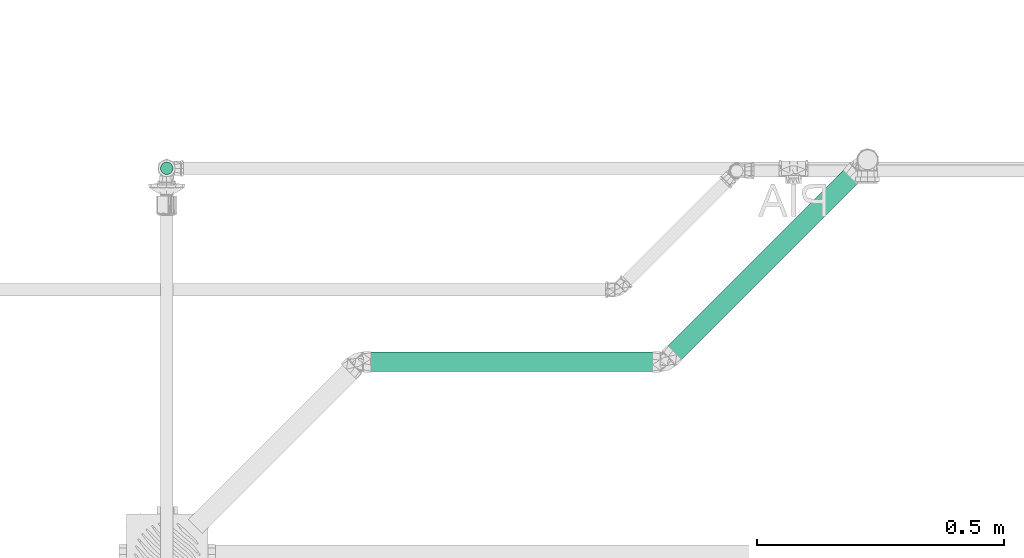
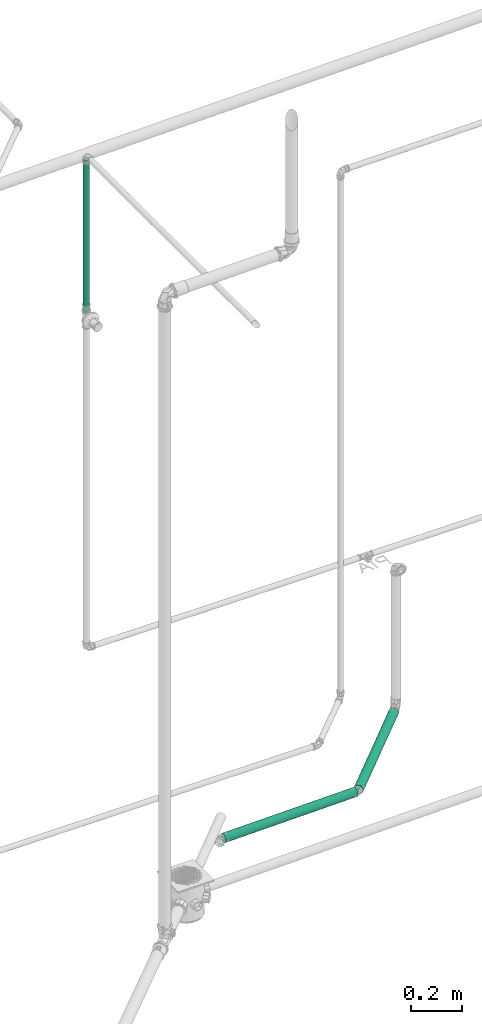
# One storey, part 71 of 589: 3 flow segments.
"""IFC2X3 building model written with IfcOpenShell, lengths in millimetres."""

import ifcopenshell
import ifcopenshell.guid

model = None  # the IFC model being written
_history = None  # IfcOwnerHistory: only IFC2X3 demands one
_inside = {}  # id of a spatial element -> (the spatial element, [elements in it])
_under = {}  # id of a project, library or spatial element -> (it, [spatial elements below it])
_declared = {}  # id of a project -> (the project, [libraries it declares])
_typed = {}  # id of a type object -> (the type object, [elements of that type])
_made_of = {}  # id of a material, layer set ... -> (it, [elements and type objects made of it])


def new_model(schema):
    """Start an empty IFC model of exactly this schema.

    Asked for "IFC4X3", IfcOpenShell would pick the latest addendum, in which some entities
    have other attributes; the version numbers below select the first issue.
    IFC2X3 requires an IfcOwnerHistory on every rooted entity: one is made here for all.
    """
    global model, _history
    if schema == "IFC4X3":
        model = ifcopenshell.file(schema_version=(4, 3, 0, 0))
    else:
        model = ifcopenshell.file(schema=schema)
    _inside.clear()
    _under.clear()
    _declared.clear()
    _typed.clear()
    _made_of.clear()
    _history = None
    if model.schema == "IFC2X3":
        org = make("IfcOrganization", Name="unknown")
        user = make(
            "IfcPersonAndOrganization",
            ThePerson=make("IfcPerson", FamilyName="unknown"),
            TheOrganization=org,
        )
        app = make(
            "IfcApplication",
            ApplicationDeveloper=org,
            Version="unknown",
            ApplicationFullName="unknown",
            ApplicationIdentifier="unknown",
        )
        _history = make(
            "IfcOwnerHistory",
            OwningUser=user,
            OwningApplication=app,
            ChangeAction="ADDED",
            CreationDate=0,
        )
    return model


def make(cls, **values):
    """One entity of the class cls with the attributes given. An attribute that is None is left unset."""
    return model.create_entity(
        cls, **{name: value for name, value in values.items() if value is not None}
    )


def entity(cls, *values):
    """Any entity or typed value of the class cls, its attributes in the order of the schema. None: left unset."""
    e = model.create_entity(cls)
    for i, value in enumerate(values):
        if value is not None:
            e[i] = value
    return e


def rooted(cls, **values):
    """An entity with a GlobalId (a new one), such as an element, a storey or a relation."""
    return make(cls, GlobalId=ifcopenshell.guid.new(), OwnerHistory=_history, **values)


def si_unit(unit_type, name, prefix=None):
    """IfcSIUnit, for example si_unit("LENGTHUNIT", "METRE", prefix="MILLI")."""
    return make("IfcSIUnit", UnitType=unit_type, Prefix=prefix, Name=name)


def converted_unit(unit_type, name, factor, base, dimensions=None, offset=None):
    """IfcConversionBasedUnit, such as the inch: factor (a typed value) times the base unit."""
    return make(
        "IfcConversionBasedUnit"
        if offset is None
        else "IfcConversionBasedUnitWithOffset",
        ConversionOffset=offset,
        Dimensions=None
        if dimensions is None
        else entity("IfcDimensionalExponents", *dimensions),
        UnitType=unit_type,
        Name=name,
        ConversionFactor=make(
            "IfcMeasureWithUnit", ValueComponent=factor, UnitComponent=base
        ),
    )


def derived_unit(unit_type, elements):
    """IfcDerivedUnit: a product of units, each with its exponent."""
    return make(
        "IfcDerivedUnit",
        Elements=[
            make("IfcDerivedUnitElement", Unit=unit, Exponent=power)
            for unit, power in elements
        ],
        UnitType=unit_type,
    )


def assignment(units):
    """IfcUnitAssignment: the units of a project."""
    return None if units is None else make("IfcUnitAssignment", Units=units)


def point(xyz):
    """IfcCartesianPoint."""
    return None if xyz is None else make("IfcCartesianPoint", Coordinates=xyz)


def direction(xyz):
    """IfcDirection."""
    return None if xyz is None else make("IfcDirection", DirectionRatios=xyz)


def frame(location, z_axis=None, x_axis=None):
    """IfcAxis2Placement3D, a coordinate frame: its origin and axes. An axis left out is left unset."""
    return make(
        "IfcAxis2Placement3D",
        Location=point(location),
        Axis=direction(z_axis),
        RefDirection=direction(x_axis),
    )


def frame_2d(location, x_axis=None):
    """IfcAxis2Placement2D, a coordinate frame in the plane: its origin and x axis."""
    return make(
        "IfcAxis2Placement2D", Location=point(location), RefDirection=direction(x_axis)
    )


def origin():
    """The frame at (0, 0, 0) with its axes left unset."""
    return frame((0.0, 0.0, 0.0))


def origin_2d_with_axis():
    """The frame at (0, 0) in the plane with the x axis (1, 0) written out."""
    return frame_2d((0.0, 0.0), x_axis=(1.0, 0.0))


def place(relative_to, where):
    """IfcLocalPlacement: puts the frame where relative to a parent placement (None: the world)."""
    return make(
        "IfcLocalPlacement", PlacementRelTo=relative_to, RelativePlacement=where
    )


def context(
    kind, dimensions, precision=None, world=None, true_north=None, identifier=None
):
    """IfcGeometricRepresentationContext, for example the 3D "Model" context."""
    return make(
        "IfcGeometricRepresentationContext",
        ContextIdentifier=identifier,
        ContextType=kind,
        CoordinateSpaceDimension=dimensions,
        Precision=precision,
        WorldCoordinateSystem=world,
        TrueNorth=true_north,
    )


def subcontext(parent, identifier, kind, view, scale=None):
    """IfcGeometricRepresentationSubContext, for example "Body" below "Model"."""
    return make(
        "IfcGeometricRepresentationSubContext",
        ContextIdentifier=identifier,
        ContextType=kind,
        ParentContext=parent,
        TargetScale=scale,
        TargetView=view,
    )


def project(units=None, contexts=None):
    """IfcProject with its units and contexts."""
    return rooted(
        "IfcProject",
        Name="project",
        RepresentationContexts=contexts,
        UnitsInContext=assignment(units),
    )


def spatial(cls, under=None, at=None, **own):
    """A site, building, storey or space (cls), placed at a placement, below another one or the project."""
    s = rooted(cls, ObjectPlacement=at, **own)
    if under is not None:
        _under.setdefault(under.id(), (under, []))[1].append(s)
    return s


def profile(cls, at=None, kind="AREA", **sizes):
    """A parametric profile (cls). Its sizes go by their IFC names, for example OverallWidth=200.0."""
    return make(cls, ProfileType=kind, Position=at, **sizes)


def circle(**sizes):
    """IfcCircleProfileDef."""
    return profile("IfcCircleProfileDef", **sizes)


def extrude(swept, where, along, depth):
    """IfcExtrudedAreaSolid: the profile swept, set in the frame where, extruded along a direction by depth."""
    return make(
        "IfcExtrudedAreaSolid",
        SweptArea=swept,
        Position=where,
        ExtrudedDirection=direction(along),
        Depth=depth,
    )


def shape(context_of_items, identifier, shape_type, items):
    """IfcShapeRepresentation: the items that make up one representation, for example the "Body"."""
    return make(
        "IfcShapeRepresentation",
        ContextOfItems=context_of_items,
        RepresentationIdentifier=identifier,
        RepresentationType=shape_type,
        Items=items,
    )


def made_of(thing, what):
    """Note that an element or type object is made of a material, layer set ...; save() writes the relation."""
    if what is not None:
        _made_of.setdefault(what.id(), (what, []))[1].append(thing)
    return thing


def type_object(cls, material=None, **own):
    """A type object (cls), such as IfcWallType, which elements share."""
    return made_of(rooted(cls, **own), material)


def element(
    cls,
    number,
    at=None,
    inside=None,
    cuts=None,
    type_object=None,
    material=None,
    context=None,
    identifier="Body",
    shape_type=None,
    held_by="IfcProductDefinitionShape",
    body=None,
    shapes=None,
    **own,
):
    """One element of the class cls, such as IfcWall. Its Tag is "e" and its number.

    at: its placement. inside: the storey or other place that contains it. cuts: it is an
    opening in that element (IfcRelVoidsElement). A single representation is given by context,
    identifier, shape_type and body (its items); several are given by shapes. held_by: the class
    of the entity that holds the representations. save() writes the other relations.
    """
    e = rooted(cls, Tag="e%d" % number, ObjectPlacement=at, **own)
    if body is not None:
        shapes = [shape(context, identifier, shape_type, body)]
    if shapes is not None:
        e.Representation = make(held_by, Representations=shapes)
    if inside is not None:
        _inside.setdefault(inside.id(), (inside, []))[1].append(e)
    if cuts is not None:
        rooted(
            "IfcRelVoidsElement", RelatingBuildingElement=cuts, RelatedOpeningElement=e
        )
    if type_object is not None:
        _typed.setdefault(type_object.id(), (type_object, []))[1].append(e)
    return made_of(e, material)


def aggregate(whole, parts):
    """IfcRelAggregates: a whole, such as a stair, and the parts it consists of."""
    return rooted("IfcRelAggregates", RelatingObject=whole, RelatedObjects=parts)


def save(model, path):
    """Write the relations noted so far, then the file.

    IfcRelAggregates (storeys below a building ...), IfcRelContainedInSpatialStructure (elements
    in a storey), IfcRelDefinesByType, IfcRelAssociatesMaterial and IfcRelDeclares: one each for
    every whole, place, type object, material and project.
    """
    for whole, parts in _under.values():
        aggregate(whole, parts)
    for where, things in _inside.values():
        rooted(
            "IfcRelContainedInSpatialStructure",
            RelatedElements=things,
            RelatingStructure=where,
        )
    for kind, things in _typed.values():
        rooted("IfcRelDefinesByType", RelatedObjects=things, RelatingType=kind)
    for what, things in _made_of.values():
        rooted("IfcRelAssociatesMaterial", RelatedObjects=things, RelatingMaterial=what)
    for by, libraries in _declared.values():
        rooted("IfcRelDeclares", RelatingContext=by, RelatedDefinitions=libraries)
    model.write(path)


model = new_model("IFC2X3")

# Units and contexts
model_context = context("Model", 3, precision=0.01, world=origin(), true_north=direction((6.123031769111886e-17, 1.0)))
body_context = subcontext(model_context, "Body", "Model", "MODEL_VIEW")
ifc_project = project(units=[si_unit("LENGTHUNIT", "METRE", prefix="MILLI"), si_unit("AREAUNIT", "SQUARE_METRE"), si_unit("VOLUMEUNIT", "CUBIC_METRE"), converted_unit("PLANEANGLEUNIT", "DEGREE", entity("IfcRatioMeasure", 0.017453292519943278), si_unit("PLANEANGLEUNIT", "RADIAN"), dimensions=[0, 0, 0, 0, 0, 0, 0]), si_unit("MASSUNIT", "GRAM", prefix="KILO"), derived_unit("MASSDENSITYUNIT", [(si_unit("MASSUNIT", "GRAM", prefix="KILO"), 1), (si_unit("LENGTHUNIT", "METRE"), -3)]), derived_unit("IONCONCENTRATIONUNIT", [(si_unit("MASSUNIT", "GRAM", prefix="KILO"), 1), (si_unit("LENGTHUNIT", "METRE"), -3)]), derived_unit("MOMENTOFINERTIAUNIT", [(si_unit("LENGTHUNIT", "METRE"), 4)]), si_unit("TIMEUNIT", "SECOND"), si_unit("FREQUENCYUNIT", "HERTZ"), si_unit("THERMODYNAMICTEMPERATUREUNIT", "DEGREE_CELSIUS"), derived_unit("THERMALTRANSMITTANCEUNIT", [(si_unit("MASSUNIT", "GRAM", prefix="KILO"), 1), (si_unit("THERMODYNAMICTEMPERATUREUNIT", "KELVIN"), -1), (si_unit("TIMEUNIT", "SECOND"), -3)]), derived_unit("THERMALCONDUCTANCEUNIT", [(si_unit("MASSUNIT", "GRAM", prefix="KILO"), 1), (si_unit("THERMODYNAMICTEMPERATUREUNIT", "KELVIN"), -1), (si_unit("TIMEUNIT", "SECOND"), -3), (si_unit("LENGTHUNIT", "METRE"), 1)]), derived_unit("VOLUMETRICFLOWRATEUNIT", [(si_unit("LENGTHUNIT", "METRE"), 3), (si_unit("TIMEUNIT", "SECOND"), -1)]), derived_unit("MASSFLOWRATEUNIT", [(si_unit("MASSUNIT", "GRAM", prefix="KILO"), 1), (si_unit("TIMEUNIT", "SECOND"), -1)]), derived_unit("ROTATIONALFREQUENCYUNIT", [(si_unit("TIMEUNIT", "SECOND"), -1)]), si_unit("ELECTRICCURRENTUNIT", "AMPERE"), si_unit("ELECTRICVOLTAGEUNIT", "VOLT"), si_unit("POWERUNIT", "WATT"), si_unit("FORCEUNIT", "NEWTON", prefix="KILO"), si_unit("ILLUMINANCEUNIT", "LUX"), si_unit("LUMINOUSFLUXUNIT", "LUMEN"), si_unit("LUMINOUSINTENSITYUNIT", "CANDELA"), derived_unit("USERDEFINED", [(si_unit("MASSUNIT", "GRAM", prefix="KILO"), -1), (si_unit("LENGTHUNIT", "METRE"), -2), (si_unit("TIMEUNIT", "SECOND"), 3), (si_unit("LUMINOUSFLUXUNIT", "LUMEN"), 1)]), derived_unit("USERDEFINED", [(si_unit("MASSUNIT", "GRAM", prefix="KILO"), 1), (si_unit("TIMEUNIT", "SECOND"), -3), (si_unit("LENGTHUNIT", "METRE"), 3), (si_unit("ELECTRICCURRENTUNIT", "AMPERE"), -2)]), derived_unit("SOUNDPOWERUNIT", [(si_unit("MASSUNIT", "GRAM", prefix="KILO"), 1), (si_unit("TIMEUNIT", "SECOND"), -3), (si_unit("LENGTHUNIT", "METRE"), 2)]), derived_unit("SOUNDPRESSUREUNIT", [(si_unit("MASSUNIT", "GRAM", prefix="KILO"), 1), (si_unit("LENGTHUNIT", "METRE"), -1), (si_unit("TIMEUNIT", "SECOND"), -2)]), derived_unit("LINEARVELOCITYUNIT", [(si_unit("LENGTHUNIT", "METRE"), 1), (si_unit("TIMEUNIT", "SECOND"), -1)]), si_unit("PRESSUREUNIT", "PASCAL"), derived_unit("USERDEFINED", [(si_unit("MASSUNIT", "GRAM", prefix="KILO"), 1), (si_unit("LENGTHUNIT", "METRE"), -2), (si_unit("TIMEUNIT", "SECOND"), -2)]), derived_unit("LINEARFORCEUNIT", [(si_unit("MASSUNIT", "GRAM", prefix="KILO"), 1), (si_unit("TIMEUNIT", "SECOND"), -2)]), derived_unit("PLANARFORCEUNIT", [(si_unit("MASSUNIT", "GRAM", prefix="KILO"), 1), (si_unit("LENGTHUNIT", "METRE"), -1), (si_unit("TIMEUNIT", "SECOND"), -2)]), derived_unit("SPECIFICHEATCAPACITYUNIT", [(si_unit("THERMODYNAMICTEMPERATUREUNIT", "KELVIN"), -1), (si_unit("LENGTHUNIT", "METRE"), 2), (si_unit("TIMEUNIT", "SECOND"), -2)]), derived_unit("HEATINGVALUEUNIT", [(si_unit("LENGTHUNIT", "METRE"), 2), (si_unit("TIMEUNIT", "SECOND"), -2)]), derived_unit("VAPORPERMEABILITYUNIT", [(si_unit("LENGTHUNIT", "METRE"), -1), (si_unit("TIMEUNIT", "SECOND"), 1)]), derived_unit("DYNAMICVISCOSITYUNIT", [(si_unit("MASSUNIT", "GRAM", prefix="KILO"), 1), (si_unit("TIMEUNIT", "SECOND"), -1), (si_unit("LENGTHUNIT", "METRE"), -1)]), derived_unit("THERMALEXPANSIONCOEFFICIENTUNIT", [(si_unit("THERMODYNAMICTEMPERATUREUNIT", "KELVIN"), -1)]), derived_unit("MODULUSOFELASTICITYUNIT", [(si_unit("MASSUNIT", "GRAM", prefix="KILO"), 1), (si_unit("LENGTHUNIT", "METRE"), -1), (si_unit("TIMEUNIT", "SECOND"), -2)]), derived_unit("ISOTHERMALMOISTURECAPACITYUNIT", [(si_unit("LENGTHUNIT", "METRE"), 3), (si_unit("MASSUNIT", "GRAM", prefix="KILO"), -1)]), derived_unit("MOISTUREDIFFUSIVITYUNIT", [(si_unit("TIMEUNIT", "SECOND"), -1), (si_unit("LENGTHUNIT", "METRE"), 2)])], contexts=[model_context])

# Site, building, storey
site_placement = place(None, origin())
site = spatial("IfcSite", under=ifc_project, at=site_placement, Name="Default", CompositionType="ELEMENT")
building_placement = place(site_placement, origin())
building = spatial("IfcBuilding", under=site, at=building_placement, CompositionType="ELEMENT")
storey_placement = place(building_placement, frame((0.0, 0.0, 100.0)))
storey = spatial("IfcBuildingStorey", under=building, at=storey_placement, Name="TÉRREO", CompositionType="ELEMENT", Elevation=100.0)

# Flow segments
pipe_segment_type_1 = type_object("IfcPipeSegmentType", Name="Tipos de tubos:PVC Esgoto Série Normal", PredefinedType="NOTDEFINED")
flow_segment_1_placement = place(storey_placement, origin())
element("IfcFlowSegment", 1, at=flow_segment_1_placement, inside=storey, type_object=pipe_segment_type_1, Name="Tipos de tubos:PVC Esgoto Série Normal", ObjectType="Tipos de tubos:PVC Esgoto Série Normal", context=body_context, shape_type="SweptSolid", body=[
    extrude(circle(Radius=20.0, at=frame_2d((0.0, -3.383283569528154e-14), x_axis=(1.0, 0.0))), frame((-6963.846866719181, -4713.922212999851, -215.61951024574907), z_axis=(0.9998001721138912, 4.645388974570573e-08, 0.019990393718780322), x_axis=(4.646317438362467e-08, -1.0, 0.0)), (0.0, 0.0, 1.0), 600.4126576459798),
])
flow_segment_2_placement = place(storey_placement, origin())
element("IfcFlowSegment", 2, at=flow_segment_2_placement, inside=storey, type_object=pipe_segment_type_1, Name="Tipos de tubos:PVC Esgoto Série Normal", ObjectType="Tipos de tubos:PVC Esgoto Série Normal", context=body_context, shape_type="SweptSolid", body=[
    extrude(circle(Radius=20.0, at=frame_2d((0.0, -1.691645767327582e-14), x_axis=(1.0, 0.0))), frame((-6343.93116315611, -4705.792912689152, -203.15720970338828), z_axis=(0.7068964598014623, 0.7070378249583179, 0.019872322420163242), x_axis=(-0.7071774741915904, 0.7070360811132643, 0.0)), (0.0, 0.0, 1.0), 534.8554995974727),
])
pipe_segment_type_2 = type_object("IfcPipeSegmentType", Name="Tipos de tubos:PVC Marrom Soldável", PredefinedType="NOTDEFINED")
flow_segment_3_placement = place(storey_placement, origin())
element("IfcFlowSegment", 3, at=flow_segment_3_placement, inside=storey, type_object=pipe_segment_type_2, Name="Tipos de tubos:PVC Marrom Soldável", ObjectType="Tipos de tubos:PVC Marrom Soldável", context=body_context, shape_type="SweptSolid", body=[
    extrude(circle(Radius=12.5, at=origin_2d_with_axis()), frame((-7362.272959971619, -4322.12578222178, 2220.0), z_axis=(0.0, 0.0, 1.0), x_axis=(-1.0, 0.0, 0.0)), (0.0, 0.0, 1.0), 734.6000000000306),
])

save(model, "model.ifc")
